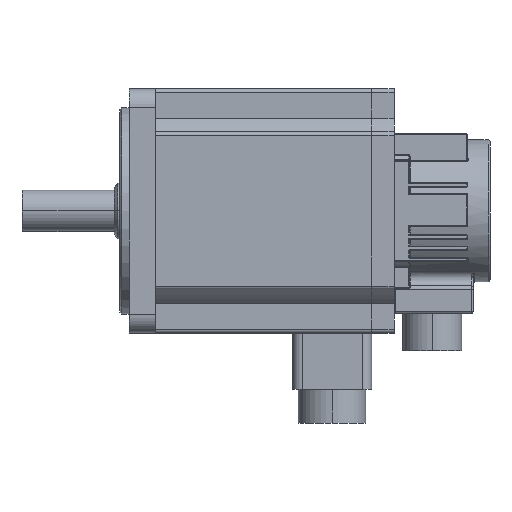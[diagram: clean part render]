
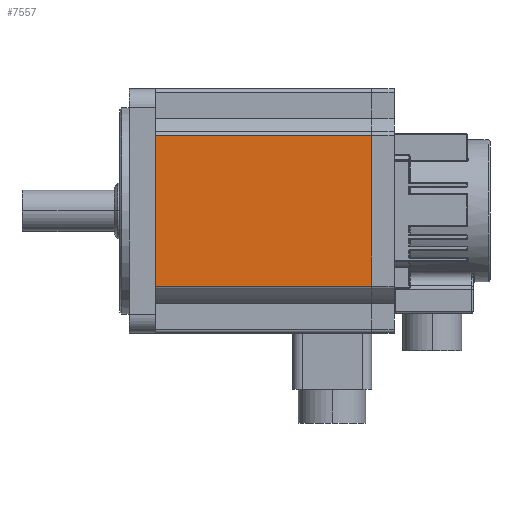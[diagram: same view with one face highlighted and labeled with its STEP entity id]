
A CAD part, left-side view. The second image highlights one B-rep face of the part: STEP entity #7557.
In plain terms, the highlighted planar face has unit normal (-1, 0, 0) as drawn and (0, 0, 1) by its records, which use the part's own axes.
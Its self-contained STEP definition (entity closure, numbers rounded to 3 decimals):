
#16 = CARTESIAN_POINT ( 'NONE',  ( 40., 127., 65. ) ) ;
#922 = DIRECTION ( 'NONE',  ( 1., 0., 0. ) ) ;
#1088 = ORIENTED_EDGE ( 'NONE', *, *, #12032, .T. ) ;
#1508 = LINE ( 'NONE', #16645, #11861 ) ;
#2824 = CARTESIAN_POINT ( 'NONE',  ( -40., 127., 65. ) ) ;
#3286 = EDGE_CURVE ( 'NONE', #26448, #9730, #1508, .T. ) ;
#4032 = VERTEX_POINT ( 'NONE', #4942 ) ;
#4517 = LINE ( 'NONE', #2824, #27715 ) ;
#4942 = CARTESIAN_POINT ( 'NONE',  ( -40., 12., 65. ) ) ;
#5430 = EDGE_LOOP ( 'NONE', ( #15341, #21474, #5609, #1088 ) ) ;
#5450 = CARTESIAN_POINT ( 'NONE',  ( -40., 127., 65. ) ) ;
#5609 = ORIENTED_EDGE ( 'NONE', *, *, #10989, .F. ) ;
#6262 = CARTESIAN_POINT ( 'NONE',  ( 40., 12., 65. ) ) ;
#7470 = AXIS2_PLACEMENT_3D ( 'NONE', #9612, #22457, #18226 ) ;
#7557 = ADVANCED_FACE ( 'NONE', ( #22324 ), #22592, .F. ) ;
#9133 = EDGE_CURVE ( 'NONE', #4032, #9730, #24962, .T. ) ;
#9612 = CARTESIAN_POINT ( 'NONE',  ( -40., 127., 65. ) ) ;
#9730 = VERTEX_POINT ( 'NONE', #6262 ) ;
#10715 = DIRECTION ( 'NONE',  ( 0., -1., 0. ) ) ;
#10989 = EDGE_CURVE ( 'NONE', #25616, #26448, #11555, .T. ) ;
#11456 = DIRECTION ( 'NONE',  ( 0., -1., 0. ) ) ;
#11555 = LINE ( 'NONE', #5450, #19010 ) ;
#11861 = VECTOR ( 'NONE', #10715, 1000. ) ;
#12032 = EDGE_CURVE ( 'NONE', #25616, #4032, #4517, .T. ) ;
#14252 = CARTESIAN_POINT ( 'NONE',  ( -40., 12., 65. ) ) ;
#15341 = ORIENTED_EDGE ( 'NONE', *, *, #9133, .T. ) ;
#16645 = CARTESIAN_POINT ( 'NONE',  ( 40., 127., 65. ) ) ;
#17093 = CARTESIAN_POINT ( 'NONE',  ( -40., 127., 65. ) ) ;
#18226 = DIRECTION ( 'NONE',  ( -1., 0., 0. ) ) ;
#19010 = VECTOR ( 'NONE', #922, 1000. ) ;
#20311 = DIRECTION ( 'NONE',  ( 1., 0., 0. ) ) ;
#21474 = ORIENTED_EDGE ( 'NONE', *, *, #3286, .F. ) ;
#22324 = FACE_OUTER_BOUND ( 'NONE', #5430, .T. ) ;
#22457 = DIRECTION ( 'NONE',  ( 0., 0., -1. ) ) ;
#22592 = PLANE ( 'NONE',  #7470 ) ;
#24962 = LINE ( 'NONE', #14252, #27818 ) ;
#25616 = VERTEX_POINT ( 'NONE', #17093 ) ;
#26448 = VERTEX_POINT ( 'NONE', #16 ) ;
#27715 = VECTOR ( 'NONE', #11456, 1000. ) ;
#27818 = VECTOR ( 'NONE', #20311, 1000. ) ;
